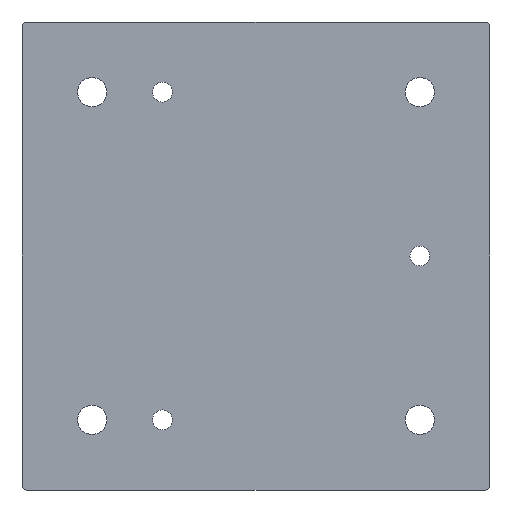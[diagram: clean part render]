
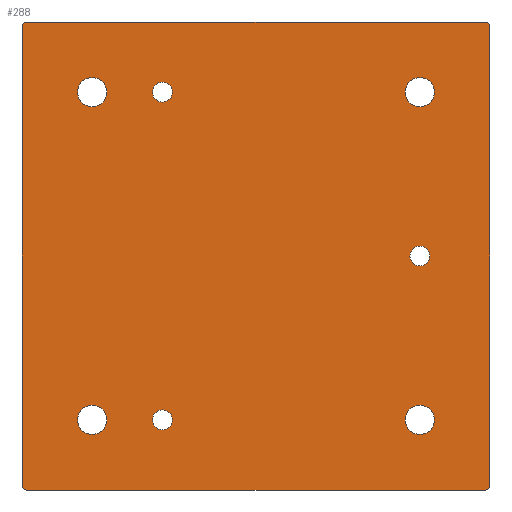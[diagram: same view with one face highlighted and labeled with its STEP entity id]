
A CAD part, front view. The second image highlights one B-rep face of the part: STEP entity #288.
In plain terms, the highlighted planar face has unit normal (0, -1, 0).
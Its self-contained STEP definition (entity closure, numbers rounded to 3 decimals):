
#11 = DIRECTION ( 'NONE',  ( 0., 1., 0. ) ) ;
#14 = DIRECTION ( 'NONE',  ( 0., 1., 0. ) ) ;
#28 = AXIS2_PLACEMENT_3D ( 'NONE', #752, #14, #994 ) ;
#31 = DIRECTION ( 'NONE',  ( 0., 0., 1. ) ) ;
#36 = EDGE_CURVE ( 'NONE', #836, #836, #321, .T. ) ;
#40 = EDGE_LOOP ( 'NONE', ( #1093 ) ) ;
#45 = CIRCLE ( 'NONE', #68, 2. ) ;
#55 = CARTESIAN_POINT ( 'NONE',  ( -98., 0., -100. ) ) ;
#60 = ORIENTED_EDGE ( 'NONE', *, *, #392, .T. ) ;
#68 = AXIS2_PLACEMENT_3D ( 'NONE', #345, #679, #1112 ) ;
#74 = ORIENTED_EDGE ( 'NONE', *, *, #36, .T. ) ;
#76 = CARTESIAN_POINT ( 'NONE',  ( -40., 0., -65.75 ) ) ;
#90 = VECTOR ( 'NONE', #210, 1000. ) ;
#94 = FACE_BOUND ( 'NONE', #426, .T. ) ;
#96 = VERTEX_POINT ( 'NONE', #539 ) ;
#108 = FACE_BOUND ( 'NONE', #40, .T. ) ;
#112 = LINE ( 'NONE', #546, #90 ) ;
#146 = EDGE_CURVE ( 'NONE', #1179, #665, #1065, .T. ) ;
#158 = ORIENTED_EDGE ( 'NONE', *, *, #898, .F. ) ;
#159 = AXIS2_PLACEMENT_3D ( 'NONE', #522, #541, #416 ) ;
#172 = CARTESIAN_POINT ( 'NONE',  ( 70., 0., 76.25 ) ) ;
#187 = CARTESIAN_POINT ( 'NONE',  ( 70., 0., 4.25 ) ) ;
#189 = EDGE_LOOP ( 'NONE', ( #1261, #1141, #1134, #158, #1053, #582, #278, #1151 ) ) ;
#197 = DIRECTION ( 'NONE',  ( 0., 1., 0. ) ) ;
#202 = CARTESIAN_POINT ( 'NONE',  ( 70., 0., -63.75 ) ) ;
#203 = AXIS2_PLACEMENT_3D ( 'NONE', #854, #1087, #768 ) ;
#210 = DIRECTION ( 'NONE',  ( 1., 0., 0. ) ) ;
#228 = VECTOR ( 'NONE', #1287, 1000. ) ;
#244 = CARTESIAN_POINT ( 'NONE',  ( -100., 0., -98. ) ) ;
#260 = EDGE_CURVE ( 'NONE', #739, #739, #924, .T. ) ;
#275 = VERTEX_POINT ( 'NONE', #844 ) ;
#278 = ORIENTED_EDGE ( 'NONE', *, *, #146, .F. ) ;
#288 = ADVANCED_FACE ( 'NONE', ( #108, #94, #538, #519, #942, #1285, #1395, #862 ), #951, .F. ) ;
#303 = AXIS2_PLACEMENT_3D ( 'NONE', #712, #369, #1353 ) ;
#321 = CIRCLE ( 'NONE', #654, 6.25 ) ;
#333 = CARTESIAN_POINT ( 'NONE',  ( -40., 0., 70. ) ) ;
#345 = CARTESIAN_POINT ( 'NONE',  ( -98., 0., -98. ) ) ;
#354 = CIRCLE ( 'NONE', #1143, 4.25 ) ;
#369 = DIRECTION ( 'NONE',  ( 0., 1., 0. ) ) ;
#377 = ORIENTED_EDGE ( 'NONE', *, *, #476, .T. ) ;
#380 = LINE ( 'NONE', #1252, #1040 ) ;
#392 = EDGE_CURVE ( 'NONE', #1396, #1396, #579, .T. ) ;
#398 = VERTEX_POINT ( 'NONE', #244 ) ;
#416 = DIRECTION ( 'NONE',  ( 0., 0., 1. ) ) ;
#423 = LINE ( 'NONE', #847, #228 ) ;
#426 = EDGE_LOOP ( 'NONE', ( #501 ) ) ;
#437 = CIRCLE ( 'NONE', #1156, 4.25 ) ;
#445 = CARTESIAN_POINT ( 'NONE',  ( 70., 0., 0. ) ) ;
#458 = EDGE_LOOP ( 'NONE', ( #377 ) ) ;
#476 = EDGE_CURVE ( 'NONE', #1181, #1181, #925, .T. ) ;
#484 = CARTESIAN_POINT ( 'NONE',  ( -70., 0., -70. ) ) ;
#490 = EDGE_CURVE ( 'NONE', #801, #275, #814, .T. ) ;
#493 = VERTEX_POINT ( 'NONE', #1214 ) ;
#498 = ORIENTED_EDGE ( 'NONE', *, *, #551, .T. ) ;
#501 = ORIENTED_EDGE ( 'NONE', *, *, #721, .T. ) ;
#511 = EDGE_LOOP ( 'NONE', ( #74 ) ) ;
#519 = FACE_OUTER_BOUND ( 'NONE', #189, .T. ) ;
#522 = CARTESIAN_POINT ( 'NONE',  ( 70., 0., 70. ) ) ;
#525 = AXIS2_PLACEMENT_3D ( 'NONE', #1304, #11, #749 ) ;
#527 = ORIENTED_EDGE ( 'NONE', *, *, #260, .T. ) ;
#538 = FACE_BOUND ( 'NONE', #1129, .T. ) ;
#539 = CARTESIAN_POINT ( 'NONE',  ( -40., 0., 74.25 ) ) ;
#540 = DIRECTION ( 'NONE',  ( 0., 1., 0. ) ) ;
#541 = DIRECTION ( 'NONE',  ( 0., 1., 0. ) ) ;
#546 = CARTESIAN_POINT ( 'NONE',  ( -98., 0., 100. ) ) ;
#549 = CARTESIAN_POINT ( 'NONE',  ( -98., 0., -98. ) ) ;
#551 = EDGE_CURVE ( 'NONE', #1389, #1389, #861, .T. ) ;
#577 = DIRECTION ( 'NONE',  ( 0., 1., 0. ) ) ;
#579 = CIRCLE ( 'NONE', #904, 4.25 ) ;
#582 = ORIENTED_EDGE ( 'NONE', *, *, #644, .F. ) ;
#600 = VERTEX_POINT ( 'NONE', #1206 ) ;
#629 = DIRECTION ( 'NONE',  ( 0., 0., 1. ) ) ;
#644 = EDGE_CURVE ( 'NONE', #665, #801, #112, .T. ) ;
#646 = DIRECTION ( 'NONE',  ( 0., 1., 0. ) ) ;
#654 = AXIS2_PLACEMENT_3D ( 'NONE', #484, #1034, #693 ) ;
#659 = CARTESIAN_POINT ( 'NONE',  ( -100., 0., -98. ) ) ;
#665 = VERTEX_POINT ( 'NONE', #970 ) ;
#679 = DIRECTION ( 'NONE',  ( 0., 1., 0. ) ) ;
#682 = CARTESIAN_POINT ( 'NONE',  ( 98., 0., 100. ) ) ;
#693 = DIRECTION ( 'NONE',  ( 0., 0., 1. ) ) ;
#701 = EDGE_CURVE ( 'NONE', #926, #398, #45, .T. ) ;
#712 = CARTESIAN_POINT ( 'NONE',  ( 98., 0., -98. ) ) ;
#721 = EDGE_CURVE ( 'NONE', #96, #96, #354, .T. ) ;
#739 = VERTEX_POINT ( 'NONE', #827 ) ;
#749 = DIRECTION ( 'NONE',  ( 0., 0., 1. ) ) ;
#752 = CARTESIAN_POINT ( 'NONE',  ( 70., 0., -70. ) ) ;
#768 = DIRECTION ( 'NONE',  ( 0., 0., 1. ) ) ;
#770 = LINE ( 'NONE', #659, #973 ) ;
#776 = EDGE_CURVE ( 'NONE', #600, #926, #423, .T. ) ;
#800 = EDGE_CURVE ( 'NONE', #398, #1179, #770, .T. ) ;
#801 = VERTEX_POINT ( 'NONE', #682 ) ;
#814 = CIRCLE ( 'NONE', #203, 2. ) ;
#827 = CARTESIAN_POINT ( 'NONE',  ( -70., 0., 76.25 ) ) ;
#835 = EDGE_LOOP ( 'NONE', ( #498 ) ) ;
#836 = VERTEX_POINT ( 'NONE', #960 ) ;
#844 = CARTESIAN_POINT ( 'NONE',  ( 100., 0., 98. ) ) ;
#847 = CARTESIAN_POINT ( 'NONE',  ( 98., 0., -100. ) ) ;
#854 = CARTESIAN_POINT ( 'NONE',  ( 98., 0., 98. ) ) ;
#861 = CIRCLE ( 'NONE', #159, 6.25 ) ;
#862 = FACE_BOUND ( 'NONE', #950, .T. ) ;
#869 = DIRECTION ( 'NONE',  ( 0., 0., 1. ) ) ;
#898 = EDGE_CURVE ( 'NONE', #275, #493, #380, .T. ) ;
#904 = AXIS2_PLACEMENT_3D ( 'NONE', #445, #577, #869 ) ;
#924 = CIRCLE ( 'NONE', #1379, 6.25 ) ;
#925 = CIRCLE ( 'NONE', #28, 6.25 ) ;
#926 = VERTEX_POINT ( 'NONE', #55 ) ;
#927 = EDGE_CURVE ( 'NONE', #1175, #1175, #437, .T. ) ;
#942 = FACE_BOUND ( 'NONE', #835, .T. ) ;
#950 = EDGE_LOOP ( 'NONE', ( #527 ) ) ;
#951 = PLANE ( 'NONE',  #1023 ) ;
#960 = CARTESIAN_POINT ( 'NONE',  ( -70., 0., -63.75 ) ) ;
#970 = CARTESIAN_POINT ( 'NONE',  ( -98., 0., 100. ) ) ;
#973 = VECTOR ( 'NONE', #31, 1000. ) ;
#974 = DIRECTION ( 'NONE',  ( 0., 1., 0. ) ) ;
#976 = DIRECTION ( 'NONE',  ( 0., 0., 1. ) ) ;
#994 = DIRECTION ( 'NONE',  ( 0., 0., 1. ) ) ;
#1023 = AXIS2_PLACEMENT_3D ( 'NONE', #549, #974, #1165 ) ;
#1034 = DIRECTION ( 'NONE',  ( 0., 1., 0. ) ) ;
#1040 = VECTOR ( 'NONE', #1130, 1000. ) ;
#1053 = ORIENTED_EDGE ( 'NONE', *, *, #490, .F. ) ;
#1065 = CIRCLE ( 'NONE', #525, 2. ) ;
#1087 = DIRECTION ( 'NONE',  ( 0., 1., 0. ) ) ;
#1093 = ORIENTED_EDGE ( 'NONE', *, *, #927, .T. ) ;
#1112 = DIRECTION ( 'NONE',  ( 0., 0., 1. ) ) ;
#1129 = EDGE_LOOP ( 'NONE', ( #60 ) ) ;
#1130 = DIRECTION ( 'NONE',  ( 0., 0., -1. ) ) ;
#1134 = ORIENTED_EDGE ( 'NONE', *, *, #1365, .F. ) ;
#1141 = ORIENTED_EDGE ( 'NONE', *, *, #776, .F. ) ;
#1143 = AXIS2_PLACEMENT_3D ( 'NONE', #333, #540, #976 ) ;
#1151 = ORIENTED_EDGE ( 'NONE', *, *, #800, .F. ) ;
#1156 = AXIS2_PLACEMENT_3D ( 'NONE', #1263, #197, #1178 ) ;
#1165 = DIRECTION ( 'NONE',  ( 0., 0., 1. ) ) ;
#1175 = VERTEX_POINT ( 'NONE', #76 ) ;
#1178 = DIRECTION ( 'NONE',  ( 0., 0., 1. ) ) ;
#1179 = VERTEX_POINT ( 'NONE', #1282 ) ;
#1181 = VERTEX_POINT ( 'NONE', #202 ) ;
#1194 = CARTESIAN_POINT ( 'NONE',  ( -70., 0., 70. ) ) ;
#1206 = CARTESIAN_POINT ( 'NONE',  ( 98., 0., -100. ) ) ;
#1214 = CARTESIAN_POINT ( 'NONE',  ( 100., 0., -98. ) ) ;
#1252 = CARTESIAN_POINT ( 'NONE',  ( 100., 0., 98. ) ) ;
#1261 = ORIENTED_EDGE ( 'NONE', *, *, #701, .F. ) ;
#1263 = CARTESIAN_POINT ( 'NONE',  ( -40., 0., -70. ) ) ;
#1282 = CARTESIAN_POINT ( 'NONE',  ( -100., 0., 98. ) ) ;
#1285 = FACE_BOUND ( 'NONE', #458, .T. ) ;
#1287 = DIRECTION ( 'NONE',  ( -1., 0., 0. ) ) ;
#1304 = CARTESIAN_POINT ( 'NONE',  ( -98., 0., 98. ) ) ;
#1353 = DIRECTION ( 'NONE',  ( 0., 0., 1. ) ) ;
#1365 = EDGE_CURVE ( 'NONE', #493, #600, #1388, .T. ) ;
#1379 = AXIS2_PLACEMENT_3D ( 'NONE', #1194, #646, #629 ) ;
#1388 = CIRCLE ( 'NONE', #303, 2. ) ;
#1389 = VERTEX_POINT ( 'NONE', #172 ) ;
#1395 = FACE_BOUND ( 'NONE', #511, .T. ) ;
#1396 = VERTEX_POINT ( 'NONE', #187 ) ;
